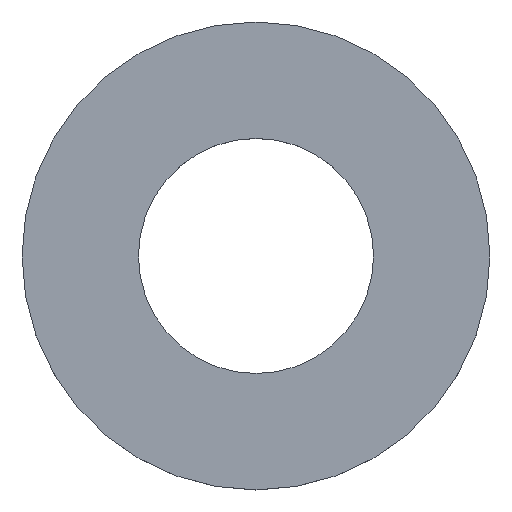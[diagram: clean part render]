
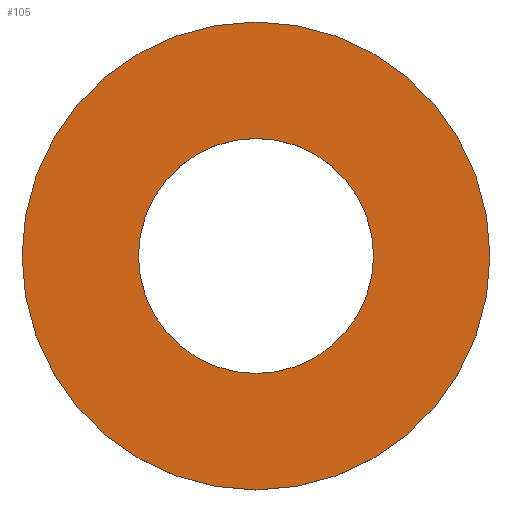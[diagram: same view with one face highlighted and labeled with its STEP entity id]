
A CAD part, top view. The second image highlights one B-rep face of the part: STEP entity #105.
In plain terms, the highlighted planar face has unit normal (0, 0, 1).
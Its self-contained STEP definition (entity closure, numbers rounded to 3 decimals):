
#21 = EDGE_CURVE('',#22,#22,#24,.T.);
#22 = VERTEX_POINT('',#23);
#23 = CARTESIAN_POINT('',(0.,15.5,5.675));
#24 = SURFACE_CURVE('',#25,(#30,#42),.PCURVE_S1.);
#25 = CIRCLE('',#26,4.1);
#26 = AXIS2_PLACEMENT_3D('',#27,#28,#29);
#27 = CARTESIAN_POINT('',(0.,11.4,5.675));
#28 = DIRECTION('',(0.,-0.,1.));
#29 = DIRECTION('',(0.,1.,0.));
#30 = PCURVE('',#31,#36);
#31 = CYLINDRICAL_SURFACE('',#32,4.1);
#32 = AXIS2_PLACEMENT_3D('',#33,#34,#35);
#33 = CARTESIAN_POINT('',(0.,11.4,5.175));
#34 = DIRECTION('',(0.,0.,1.));
#35 = DIRECTION('',(0.,1.,0.));
#36 = DEFINITIONAL_REPRESENTATION('',(#37),#41);
#37 = LINE('',#38,#39);
#38 = CARTESIAN_POINT('',(0.,0.5));
#39 = VECTOR('',#40,1.);
#40 = DIRECTION('',(1.,0.));
#41 = ( GEOMETRIC_REPRESENTATION_CONTEXT(2) 
PARAMETRIC_REPRESENTATION_CONTEXT() REPRESENTATION_CONTEXT('2D SPACE',''
  ) );
#42 = PCURVE('',#43,#48);
#43 = PLANE('',#44);
#44 = AXIS2_PLACEMENT_3D('',#45,#46,#47);
#45 = CARTESIAN_POINT('',(0.,11.4,5.675));
#46 = DIRECTION('',(0.,0.,1.));
#47 = DIRECTION('',(0.,1.,0.));
#48 = DEFINITIONAL_REPRESENTATION('',(#49),#53);
#49 = CIRCLE('',#50,4.1);
#50 = AXIS2_PLACEMENT_2D('',#51,#52);
#51 = CARTESIAN_POINT('',(0.,0.));
#52 = DIRECTION('',(1.,0.));
#53 = ( GEOMETRIC_REPRESENTATION_CONTEXT(2) 
PARAMETRIC_REPRESENTATION_CONTEXT() REPRESENTATION_CONTEXT('2D SPACE',''
  ) );
#105 = ADVANCED_FACE('',(#106,#109),#43,.T.);
#106 = FACE_BOUND('',#107,.T.);
#107 = EDGE_LOOP('',(#108));
#108 = ORIENTED_EDGE('',*,*,#21,.T.);
#109 = FACE_BOUND('',#110,.T.);
#110 = EDGE_LOOP('',(#111));
#111 = ORIENTED_EDGE('',*,*,#112,.F.);
#112 = EDGE_CURVE('',#113,#113,#115,.T.);
#113 = VERTEX_POINT('',#114);
#114 = CARTESIAN_POINT('',(0.,13.46,5.675));
#115 = SURFACE_CURVE('',#116,(#121,#128),.PCURVE_S1.);
#116 = CIRCLE('',#117,2.06);
#117 = AXIS2_PLACEMENT_3D('',#118,#119,#120);
#118 = CARTESIAN_POINT('',(0.,11.4,5.675));
#119 = DIRECTION('',(0.,-0.,1.));
#120 = DIRECTION('',(0.,1.,0.));
#121 = PCURVE('',#43,#122);
#122 = DEFINITIONAL_REPRESENTATION('',(#123),#127);
#123 = CIRCLE('',#124,2.06);
#124 = AXIS2_PLACEMENT_2D('',#125,#126);
#125 = CARTESIAN_POINT('',(0.,0.));
#126 = DIRECTION('',(1.,0.));
#127 = ( GEOMETRIC_REPRESENTATION_CONTEXT(2) 
PARAMETRIC_REPRESENTATION_CONTEXT() REPRESENTATION_CONTEXT('2D SPACE',''
  ) );
#128 = PCURVE('',#129,#134);
#129 = CYLINDRICAL_SURFACE('',#130,2.06);
#130 = AXIS2_PLACEMENT_3D('',#131,#132,#133);
#131 = CARTESIAN_POINT('',(0.,11.4,5.165));
#132 = DIRECTION('',(0.,0.,1.));
#133 = DIRECTION('',(0.,1.,0.));
#134 = DEFINITIONAL_REPRESENTATION('',(#135),#139);
#135 = LINE('',#136,#137);
#136 = CARTESIAN_POINT('',(0.,0.51));
#137 = VECTOR('',#138,1.);
#138 = DIRECTION('',(1.,0.));
#139 = ( GEOMETRIC_REPRESENTATION_CONTEXT(2) 
PARAMETRIC_REPRESENTATION_CONTEXT() REPRESENTATION_CONTEXT('2D SPACE',''
  ) );
